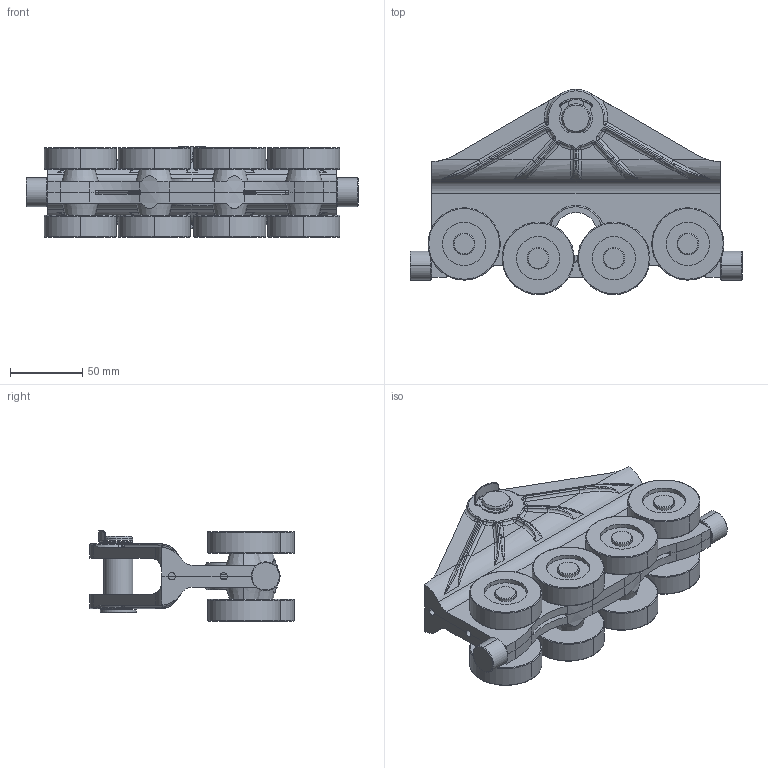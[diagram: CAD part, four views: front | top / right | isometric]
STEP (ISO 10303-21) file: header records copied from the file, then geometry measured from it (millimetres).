
FILE_DESCRIPTION((''),'2;1');
FILE_NAME('GABEL_ALU_600-600-600-300_ANY','2020-12-29T',('Administrator'),(''),'PRO/ENGINEER BY PARAMETRIC TECHNOLOGY CORPORATION, 2010100','PRO/ENGINEER BY PARAMETRIC TECHNOLOGY CORPORATION, 2010100','');
FILE_SCHEMA(('CONFIG_CONTROL_DESIGN'));
Length unit declared in the file: millimetre
Products named in the file (1): GABEL_ALU_600-600-600-300_ANY
Bounding box: 230 x 142 x 62.35 mm (x, y, z)
Surface area: 155516.8 mm2 (no closed solid volume)
Topology: 0 solids, 16 shells, 526 faces, 1397 edges, 872 vertices
Faces by surface type: cylinder 163, plane 108, torus 97, bspline 76, cone 40, sphere 32, extrusion 10
Entity records: 20788 total; most frequent: CARTESIAN_POINT 8177, DIRECTION 2603, ORIENTED_EDGE 2590, EDGE_CURVE 1377, AXIS2_PLACEMENT_3D 1080, VERTEX_POINT 872, CIRCLE 640, EDGE_LOOP 573
